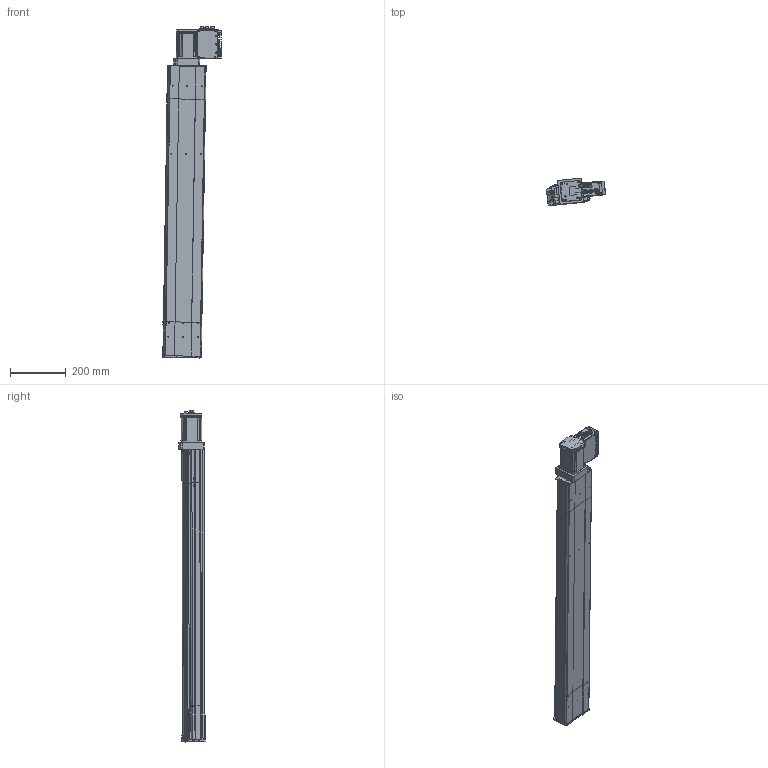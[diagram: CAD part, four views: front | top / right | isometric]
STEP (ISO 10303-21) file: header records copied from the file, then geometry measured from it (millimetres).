
FILE_DESCRIPTION (( 'STEP AP203' ), '1' );
FILE_NAME ('D14 TSH M4 MD L10 S800.STEP', '2012-10-08T07:55:43', ( '' ), ( '' ), 'SwSTEP 2.0', 'SolidWorks 2010', '' );
FILE_SCHEMA (( 'CONFIG_CONTROL_DESIGN' ));
Length unit declared in the file: millimetre
Products named in the file (22): plaque de  bout head D14 MD_Default_2; Sub D 9cts_2; T犨e fond_2; Connecteur rond D12 4cts_2; Moteur 70BLDC90A_2; Colonnette_2; Pièce802; Pièce800; D14 TSH M4 MD L10 S800; corp head D14_Default_2; Plaque racord D10.2_Default_2; corpl tail D14_Default_2; Moteur_2; T犨e contre le moteur_2; Connecteur rond D10 3cts_2; Tôle Arrière_2; Couvercle_2; Tôle latérale_2; Radiateur_2; Vis TF 3 torkx_2; plaque de  bout tail D14_Default_2; couvercle D14 head_Default_2
Assembly tree (49 placements, depth 3):
  D14 TSH M4 MD L10 S800
    Moteur_2
      Colonnette_2
      Vis TF 3 torkx_2  x26
      T犨e fond_2
      Couvercle_2
      Tôle latérale_2  x2
      Tôle Arrière_2
      Sub D 9cts_2
      T犨e contre le moteur_2
      Connecteur rond D10 3cts_2  x2
      Radiateur_2
      Moteur 70BLDC90A_2
      Connecteur rond D12 4cts_2
    corpl tail D14_Default_2
    couvercle D14 head_Default_2  x2
    corp head D14_Default_2
    plaque de  bout tail D14_Default_2
    Pièce800
    plaque de  bout head D14 MD_Default_2
    Plaque racord D10.2_Default_2
    Pièce802
Bounding box: 212.12 x 96.88 x 1191.03 mm (x, y, z)
Volume: 3601003.9 mm3; surface area: 1246632.4 mm2
Topology: 70 solids, 70 shells, 2391 faces, 6228 edges, 4107 vertices
Faces by surface type: plane 1275, cylinder 852, cone 134, bspline 130
Entity records: 63974 total; most frequent: CARTESIAN_POINT 20710, ORIENTED_EDGE 8414, DIRECTION 8094, EDGE_CURVE 4207, VERTEX_POINT 2781, LINE 2772, VECTOR 2772, AXIS2_PLACEMENT_3D 2661
